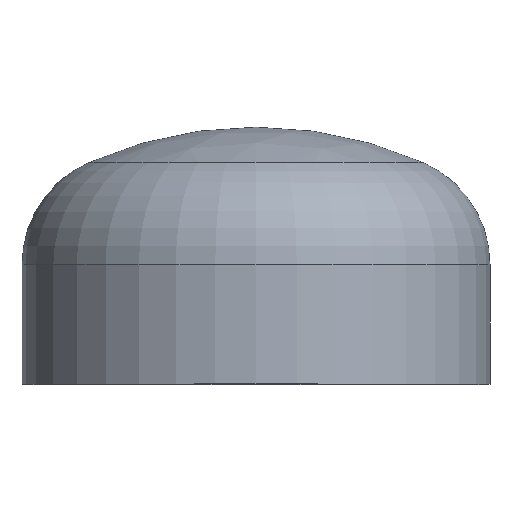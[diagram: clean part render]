
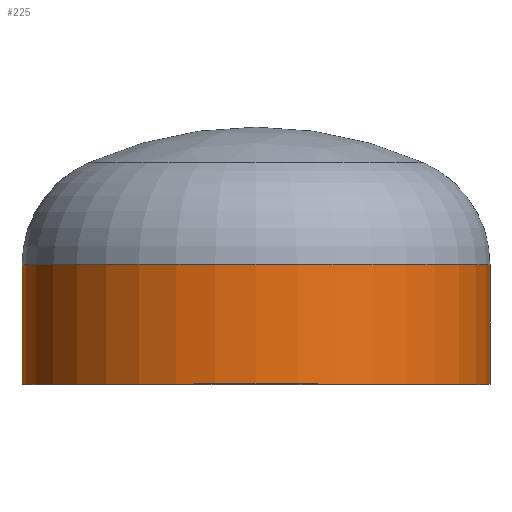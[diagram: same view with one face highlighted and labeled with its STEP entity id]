
A CAD part, top view. The second image highlights one B-rep face of the part: STEP entity #225.
In plain terms, the highlighted cylindrical face has radius 254 mm (diameter 508 mm), a partial arc.
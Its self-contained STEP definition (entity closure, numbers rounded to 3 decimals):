
#9 = AXIS2_PLACEMENT_3D ( 'NONE', #343, #341, #348 ) ;
#12 = ORIENTED_EDGE ( 'NONE', *, *, #40, .T. ) ;
#20 = CARTESIAN_POINT ( 'NONE',  ( 0., 0., 0. ) ) ;
#23 = AXIS2_PLACEMENT_3D ( 'NONE', #237, #232, #337 ) ;
#26 = DIRECTION ( 'NONE',  ( 1., 0., 0. ) ) ;
#29 = EDGE_CURVE ( 'NONE', #143, #105, #265, .T. ) ;
#31 = EDGE_CURVE ( 'NONE', #47, #143, #325, .T. ) ;
#34 = EDGE_CURVE ( 'NONE', #47, #101, #256, .T. ) ;
#38 = ORIENTED_EDGE ( 'NONE', *, *, #29, .F. ) ;
#40 = EDGE_CURVE ( 'NONE', #101, #105, #182, .T. ) ;
#47 = VERTEX_POINT ( 'NONE', #313 ) ;
#91 = ORIENTED_EDGE ( 'NONE', *, *, #34, .T. ) ;
#101 = VERTEX_POINT ( 'NONE', #184 ) ;
#105 = VERTEX_POINT ( 'NONE', #163 ) ;
#143 = VERTEX_POINT ( 'NONE', #284 ) ;
#150 = DIRECTION ( 'NONE',  ( 0., -1., 0. ) ) ;
#155 = EDGE_LOOP ( 'NONE', ( #91, #12, #38, #216 ) ) ;
#163 = CARTESIAN_POINT ( 'NONE',  ( -254., 0., 0. ) ) ;
#182 = LINE ( 'NONE', #188, #308 ) ;
#184 = CARTESIAN_POINT ( 'NONE',  ( -254., 130., 0. ) ) ;
#188 = CARTESIAN_POINT ( 'NONE',  ( -254., 0., 0. ) ) ;
#216 = ORIENTED_EDGE ( 'NONE', *, *, #31, .F. ) ;
#219 = CYLINDRICAL_SURFACE ( 'NONE', #278, 254. ) ;
#223 = FACE_OUTER_BOUND ( 'NONE', #155, .T. ) ;
#225 = ADVANCED_FACE ( 'NONE', ( #223 ), #219, .T. ) ;
#232 = DIRECTION ( 'NONE',  ( 0., -1., 0. ) ) ;
#237 = CARTESIAN_POINT ( 'NONE',  ( 0., 0., 0. ) ) ;
#239 = CARTESIAN_POINT ( 'NONE',  ( 254., 0., 0. ) ) ;
#246 = DIRECTION ( 'NONE',  ( 0., -1., 0. ) ) ;
#256 = CIRCLE ( 'NONE', #9, 254. ) ;
#265 = CIRCLE ( 'NONE', #23, 254. ) ;
#278 = AXIS2_PLACEMENT_3D ( 'NONE', #20, #150, #26 ) ;
#284 = CARTESIAN_POINT ( 'NONE',  ( 254., 0., 0. ) ) ;
#308 = VECTOR ( 'NONE', #323, 1000. ) ;
#313 = CARTESIAN_POINT ( 'NONE',  ( 254., 130., 0. ) ) ;
#323 = DIRECTION ( 'NONE',  ( 0., -1., 0. ) ) ;
#325 = LINE ( 'NONE', #239, #383 ) ;
#337 = DIRECTION ( 'NONE',  ( 1., 0., 0. ) ) ;
#341 = DIRECTION ( 'NONE',  ( 0., -1., 0. ) ) ;
#343 = CARTESIAN_POINT ( 'NONE',  ( 0., 130., 0. ) ) ;
#348 = DIRECTION ( 'NONE',  ( 1., 0., 0. ) ) ;
#383 = VECTOR ( 'NONE', #246, 1000. ) ;
